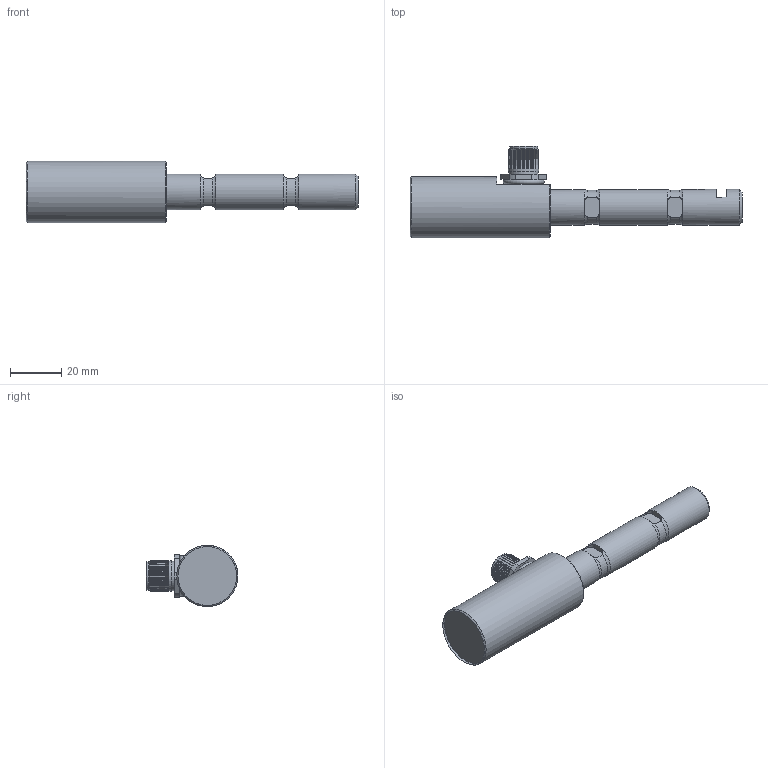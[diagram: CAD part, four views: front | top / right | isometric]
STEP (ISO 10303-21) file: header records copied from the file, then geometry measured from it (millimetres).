
FILE_DESCRIPTION(/* description */ ('Alibre Inc.'),/* implementation_level */ '2;1');
FILE_NAME(/* name */ 'export-0BA9C9D5-837A-43C5-BDCC-7723ABC1CC26',/* time_stamp */ '2023-02-10T09:27:53+01:00',/* author */ (''),/* organization */ (''),/* preprocessor_version */ 'ST-DEVELOPER v17',/* originating_system */ 'Alibre',/* authorisation */ '');
FILE_SCHEMA (('AUTOMOTIVE_DESIGN'));
Length unit declared in the file: millimetre
Bounding box: 130 x 36 x 24 mm (x, y, z)
Volume: 35337.5 mm3; surface area: 11538.8 mm2
Topology: 9 solids, 10 shells, 237 faces, 517 edges, 308 vertices
Faces by surface type: cylinder 85, plane 80, cone 62, torus 10
Full cylindrical faces by diameter (mm): 0.5 x16, 8 x2, 10 x1, 11 x1, 11.5 x1, 12 x19, 13 x2, 14 x3, 14.5 x1, 23 x1, 24 x1
Entity records: 5596 total; most frequent: CARTESIAN_POINT 1237, ORIENTED_EDGE 826, DIRECTION 757, EDGE_CURVE 403, EDGE_LOOP 360, FACE_BOUND 360, AXIS2_PLACEMENT_3D 358, VERTEX_POINT 289
